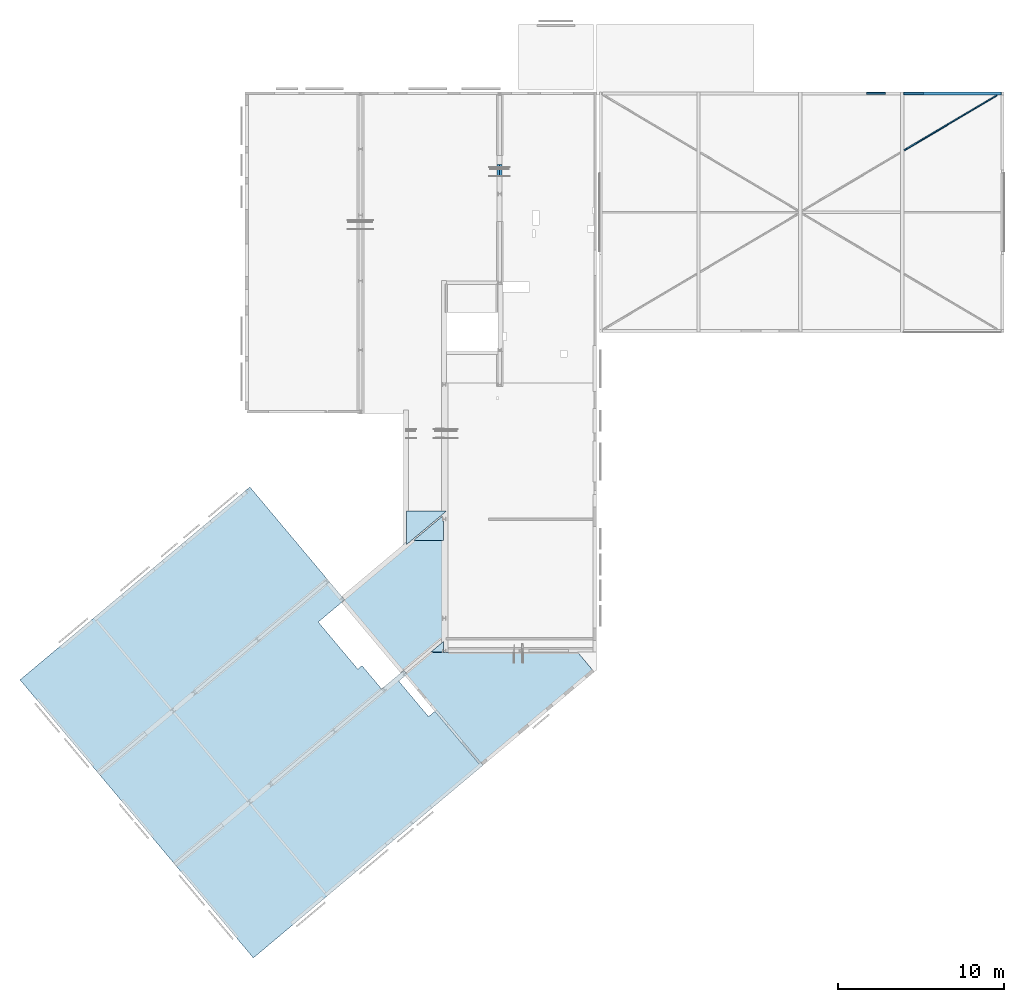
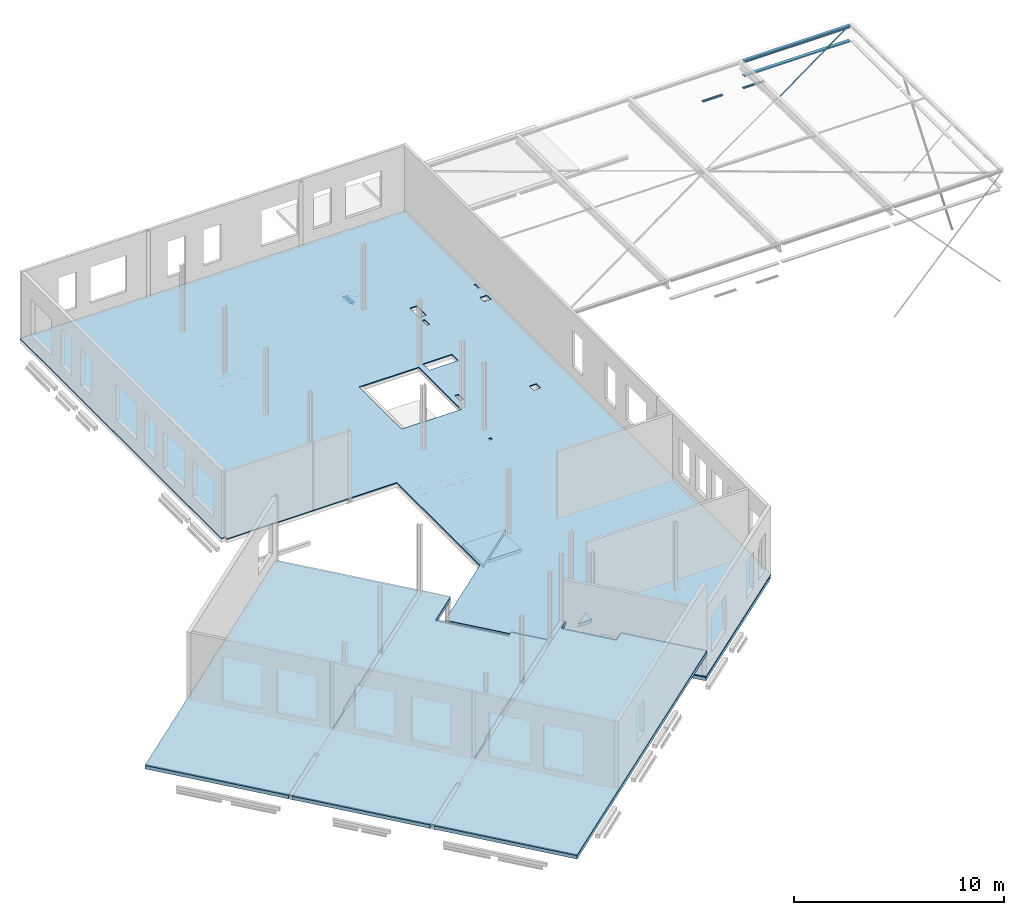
# One storey, part 11 of 16: 10 slabs, 7 beams, 9 openings.
"""IFC2X3 building model written with IfcOpenShell, lengths in millimetres."""

import ifcopenshell
import ifcopenshell.guid

model = None  # the IFC model being written
_history = None  # IfcOwnerHistory: only IFC2X3 demands one
_inside = {}  # id of a spatial element -> (the spatial element, [elements in it])
_under = {}  # id of a project, library or spatial element -> (it, [spatial elements below it])
_declared = {}  # id of a project -> (the project, [libraries it declares])
_typed = {}  # id of a type object -> (the type object, [elements of that type])
_made_of = {}  # id of a material, layer set ... -> (it, [elements and type objects made of it])


def new_model(schema):
    """Start an empty IFC model of exactly this schema.

    Asked for "IFC4X3", IfcOpenShell would pick the latest addendum, in which some entities
    have other attributes; the version numbers below select the first issue.
    IFC2X3 requires an IfcOwnerHistory on every rooted entity: one is made here for all.
    """
    global model, _history
    if schema == "IFC4X3":
        model = ifcopenshell.file(schema_version=(4, 3, 0, 0))
    else:
        model = ifcopenshell.file(schema=schema)
    _inside.clear()
    _under.clear()
    _declared.clear()
    _typed.clear()
    _made_of.clear()
    _history = None
    if model.schema == "IFC2X3":
        org = make("IfcOrganization", Name="unknown")
        user = make(
            "IfcPersonAndOrganization",
            ThePerson=make("IfcPerson", FamilyName="unknown"),
            TheOrganization=org,
        )
        app = make(
            "IfcApplication",
            ApplicationDeveloper=org,
            Version="unknown",
            ApplicationFullName="unknown",
            ApplicationIdentifier="unknown",
        )
        _history = make(
            "IfcOwnerHistory",
            OwningUser=user,
            OwningApplication=app,
            ChangeAction="ADDED",
            CreationDate=0,
        )
    return model


def make(cls, **values):
    """One entity of the class cls with the attributes given. An attribute that is None is left unset."""
    return model.create_entity(
        cls, **{name: value for name, value in values.items() if value is not None}
    )


def entity(cls, *values):
    """Any entity or typed value of the class cls, its attributes in the order of the schema. None: left unset."""
    e = model.create_entity(cls)
    for i, value in enumerate(values):
        if value is not None:
            e[i] = value
    return e


def rooted(cls, **values):
    """An entity with a GlobalId (a new one), such as an element, a storey or a relation."""
    return make(cls, GlobalId=ifcopenshell.guid.new(), OwnerHistory=_history, **values)


def si_unit(unit_type, name, prefix=None):
    """IfcSIUnit, for example si_unit("LENGTHUNIT", "METRE", prefix="MILLI")."""
    return make("IfcSIUnit", UnitType=unit_type, Prefix=prefix, Name=name)


def converted_unit(unit_type, name, factor, base, dimensions=None, offset=None):
    """IfcConversionBasedUnit, such as the inch: factor (a typed value) times the base unit."""
    return make(
        "IfcConversionBasedUnit"
        if offset is None
        else "IfcConversionBasedUnitWithOffset",
        ConversionOffset=offset,
        Dimensions=None
        if dimensions is None
        else entity("IfcDimensionalExponents", *dimensions),
        UnitType=unit_type,
        Name=name,
        ConversionFactor=make(
            "IfcMeasureWithUnit", ValueComponent=factor, UnitComponent=base
        ),
    )


def derived_unit(unit_type, elements):
    """IfcDerivedUnit: a product of units, each with its exponent."""
    return make(
        "IfcDerivedUnit",
        Elements=[
            make("IfcDerivedUnitElement", Unit=unit, Exponent=power)
            for unit, power in elements
        ],
        UnitType=unit_type,
    )


def assignment(units):
    """IfcUnitAssignment: the units of a project."""
    return None if units is None else make("IfcUnitAssignment", Units=units)


def point(xyz):
    """IfcCartesianPoint."""
    return None if xyz is None else make("IfcCartesianPoint", Coordinates=xyz)


def direction(xyz):
    """IfcDirection."""
    return None if xyz is None else make("IfcDirection", DirectionRatios=xyz)


def frame(location, z_axis=None, x_axis=None):
    """IfcAxis2Placement3D, a coordinate frame: its origin and axes. An axis left out is left unset."""
    return make(
        "IfcAxis2Placement3D",
        Location=point(location),
        Axis=direction(z_axis),
        RefDirection=direction(x_axis),
    )


def frame_2d(location, x_axis=None):
    """IfcAxis2Placement2D, a coordinate frame in the plane: its origin and x axis."""
    return make(
        "IfcAxis2Placement2D", Location=point(location), RefDirection=direction(x_axis)
    )


def origin():
    """The frame at (0, 0, 0) with its axes left unset."""
    return frame((0.0, 0.0, 0.0))


def place(relative_to, where):
    """IfcLocalPlacement: puts the frame where relative to a parent placement (None: the world)."""
    return make(
        "IfcLocalPlacement", PlacementRelTo=relative_to, RelativePlacement=where
    )


def context(
    kind, dimensions, precision=None, world=None, true_north=None, identifier=None
):
    """IfcGeometricRepresentationContext, for example the 3D "Model" context."""
    return make(
        "IfcGeometricRepresentationContext",
        ContextIdentifier=identifier,
        ContextType=kind,
        CoordinateSpaceDimension=dimensions,
        Precision=precision,
        WorldCoordinateSystem=world,
        TrueNorth=true_north,
    )


def subcontext(parent, identifier, kind, view, scale=None):
    """IfcGeometricRepresentationSubContext, for example "Body" below "Model"."""
    return make(
        "IfcGeometricRepresentationSubContext",
        ContextIdentifier=identifier,
        ContextType=kind,
        ParentContext=parent,
        TargetScale=scale,
        TargetView=view,
    )


def project(units=None, contexts=None):
    """IfcProject with its units and contexts."""
    return rooted(
        "IfcProject",
        Name="project",
        RepresentationContexts=contexts,
        UnitsInContext=assignment(units),
    )


def spatial(cls, under=None, at=None, **own):
    """A site, building, storey or space (cls), placed at a placement, below another one or the project."""
    s = rooted(cls, ObjectPlacement=at, **own)
    if under is not None:
        _under.setdefault(under.id(), (under, []))[1].append(s)
    return s


def polyline(points):
    """IfcPolyline through the points."""
    return make("IfcPolyline", Points=[point(p) for p in points])


def circle_curve(where, radius):
    """IfcCircle in the frame where."""
    return make("IfcCircle", Position=where, Radius=radius)


def parameter(value):
    """IfcParameterValue: where a trimmed curve begins or ends, as a parameter of its basis curve."""
    return model.create_entity("IfcParameterValue", value)


def trimmed(basis, trim1, trim2, sense, master):
    """IfcTrimmedCurve: the piece of a basis curve between two trims."""
    return make(
        "IfcTrimmedCurve",
        BasisCurve=basis,
        Trim1=trim1,
        Trim2=trim2,
        SenseAgreement=sense,
        MasterRepresentation=master,
    )


def segment(curve, same_sense, transition):
    """IfcCompositeCurveSegment."""
    return make(
        "IfcCompositeCurveSegment",
        Transition=transition,
        SameSense=same_sense,
        ParentCurve=curve,
    )


def composite_curve(segments, self_intersect=None):
    """IfcCompositeCurve: segments joined end to end."""
    return make("IfcCompositeCurve", Segments=segments, SelfIntersect=self_intersect)


def profile(cls, at=None, kind="AREA", **sizes):
    """A parametric profile (cls). Its sizes go by their IFC names, for example OverallWidth=200.0."""
    return make(cls, ProfileType=kind, Position=at, **sizes)


def rectangle(**sizes):
    """IfcRectangleProfileDef."""
    return profile("IfcRectangleProfileDef", **sizes)


def i_section(**sizes):
    """IfcIShapeProfileDef."""
    return profile("IfcIShapeProfileDef", **sizes)


def outline(outer, holes=None, kind="AREA"):
    """IfcArbitraryClosedProfileDef: a profile drawn as a closed curve; with holes, ...WithVoids."""
    if holes is None:
        return make("IfcArbitraryClosedProfileDef", ProfileType=kind, OuterCurve=outer)
    return make(
        "IfcArbitraryProfileDefWithVoids",
        ProfileType=kind,
        OuterCurve=outer,
        InnerCurves=holes,
    )


def extrude(swept, where, along, depth):
    """IfcExtrudedAreaSolid: the profile swept, set in the frame where, extruded along a direction by depth."""
    return make(
        "IfcExtrudedAreaSolid",
        SweptArea=swept,
        Position=where,
        ExtrudedDirection=direction(along),
        Depth=depth,
    )


def shape(context_of_items, identifier, shape_type, items):
    """IfcShapeRepresentation: the items that make up one representation, for example the "Body"."""
    return make(
        "IfcShapeRepresentation",
        ContextOfItems=context_of_items,
        RepresentationIdentifier=identifier,
        RepresentationType=shape_type,
        Items=items,
    )


def material(Name=None, Category=None):
    """IfcMaterial."""
    return make("IfcMaterial", Name=Name, Category=Category)


def layer(
    of_material, thickness, ventilated=None, Name=None, Category=None, Priority=None
):
    """IfcMaterialLayer: one layer of a wall or slab, of a material (None: an air gap)."""
    return make(
        "IfcMaterialLayer",
        Material=of_material,
        LayerThickness=thickness,
        IsVentilated=ventilated,
        Name=Name,
        Category=Category,
        Priority=Priority,
    )


def layer_set(layers, Name=None):
    """IfcMaterialLayerSet."""
    return make("IfcMaterialLayerSet", MaterialLayers=layers, LayerSetName=Name)


def layer_usage(for_layer_set, set_direction, sense, offset, extent=None):
    """IfcMaterialLayerSetUsage: how a layer set lies in its element."""
    return make(
        "IfcMaterialLayerSetUsage",
        ForLayerSet=for_layer_set,
        LayerSetDirection=set_direction,
        DirectionSense=sense,
        OffsetFromReferenceLine=offset,
        ReferenceExtent=extent,
    )


def made_of(thing, what):
    """Note that an element or type object is made of a material, layer set ...; save() writes the relation."""
    if what is not None:
        _made_of.setdefault(what.id(), (what, []))[1].append(thing)
    return thing


def type_object(cls, material=None, **own):
    """A type object (cls), such as IfcWallType, which elements share."""
    return made_of(rooted(cls, **own), material)


def element(
    cls,
    number,
    at=None,
    inside=None,
    cuts=None,
    type_object=None,
    material=None,
    context=None,
    identifier="Body",
    shape_type=None,
    held_by="IfcProductDefinitionShape",
    body=None,
    shapes=None,
    **own,
):
    """One element of the class cls, such as IfcWall. Its Tag is "e" and its number.

    at: its placement. inside: the storey or other place that contains it. cuts: it is an
    opening in that element (IfcRelVoidsElement). A single representation is given by context,
    identifier, shape_type and body (its items); several are given by shapes. held_by: the class
    of the entity that holds the representations. save() writes the other relations.
    """
    e = rooted(cls, Tag="e%d" % number, ObjectPlacement=at, **own)
    if body is not None:
        shapes = [shape(context, identifier, shape_type, body)]
    if shapes is not None:
        e.Representation = make(held_by, Representations=shapes)
    if inside is not None:
        _inside.setdefault(inside.id(), (inside, []))[1].append(e)
    if cuts is not None:
        rooted(
            "IfcRelVoidsElement", RelatingBuildingElement=cuts, RelatedOpeningElement=e
        )
    if type_object is not None:
        _typed.setdefault(type_object.id(), (type_object, []))[1].append(e)
    return made_of(e, material)


def aggregate(whole, parts):
    """IfcRelAggregates: a whole, such as a stair, and the parts it consists of."""
    return rooted("IfcRelAggregates", RelatingObject=whole, RelatedObjects=parts)


def save(model, path):
    """Write the relations noted so far, then the file.

    IfcRelAggregates (storeys below a building ...), IfcRelContainedInSpatialStructure (elements
    in a storey), IfcRelDefinesByType, IfcRelAssociatesMaterial and IfcRelDeclares: one each for
    every whole, place, type object, material and project.
    """
    for whole, parts in _under.values():
        aggregate(whole, parts)
    for where, things in _inside.values():
        rooted(
            "IfcRelContainedInSpatialStructure",
            RelatedElements=things,
            RelatingStructure=where,
        )
    for kind, things in _typed.values():
        rooted("IfcRelDefinesByType", RelatedObjects=things, RelatingType=kind)
    for what, things in _made_of.values():
        rooted("IfcRelAssociatesMaterial", RelatedObjects=things, RelatingMaterial=what)
    for by, libraries in _declared.values():
        rooted("IfcRelDeclares", RelatingContext=by, RelatedDefinitions=libraries)
    model.write(path)


model = new_model("IFC2X3")

# Units and contexts
model_context = context("Model", 3, precision=0.01, world=origin(), true_north=direction((6.12303176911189e-17, 1.0)))
body_context = subcontext(model_context, "Body", "Model", "MODEL_VIEW")
ifc_project = project(units=[si_unit("LENGTHUNIT", "METRE", prefix="MILLI"), si_unit("AREAUNIT", "SQUARE_METRE"), si_unit("VOLUMEUNIT", "CUBIC_METRE"), converted_unit("PLANEANGLEUNIT", "DEGREE", entity("IfcRatioMeasure", 0.0174532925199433), si_unit("PLANEANGLEUNIT", "RADIAN"), dimensions=[0, 0, 0, 0, 0, 0, 0]), si_unit("MASSUNIT", "GRAM", prefix="KILO"), derived_unit("MASSDENSITYUNIT", [(si_unit("MASSUNIT", "GRAM", prefix="KILO"), 1), (si_unit("LENGTHUNIT", "METRE"), -3)]), derived_unit("MOMENTOFINERTIAUNIT", [(si_unit("LENGTHUNIT", "METRE"), 4)]), si_unit("TIMEUNIT", "SECOND"), si_unit("FREQUENCYUNIT", "HERTZ"), si_unit("THERMODYNAMICTEMPERATUREUNIT", "DEGREE_CELSIUS"), derived_unit("THERMALTRANSMITTANCEUNIT", [(si_unit("MASSUNIT", "GRAM", prefix="KILO"), 1), (si_unit("THERMODYNAMICTEMPERATUREUNIT", "KELVIN"), -1), (si_unit("TIMEUNIT", "SECOND"), -3)]), derived_unit("VOLUMETRICFLOWRATEUNIT", [(si_unit("LENGTHUNIT", "METRE"), 3), (si_unit("TIMEUNIT", "SECOND"), -1)]), si_unit("ELECTRICCURRENTUNIT", "AMPERE"), si_unit("ELECTRICVOLTAGEUNIT", "VOLT"), si_unit("POWERUNIT", "WATT"), si_unit("FORCEUNIT", "NEWTON", prefix="KILO"), si_unit("ILLUMINANCEUNIT", "LUX"), si_unit("LUMINOUSFLUXUNIT", "LUMEN"), si_unit("LUMINOUSINTENSITYUNIT", "CANDELA"), derived_unit("USERDEFINED", [(si_unit("MASSUNIT", "GRAM", prefix="KILO"), -1), (si_unit("LENGTHUNIT", "METRE"), -2), (si_unit("TIMEUNIT", "SECOND"), 3), (si_unit("LUMINOUSFLUXUNIT", "LUMEN"), 1)]), derived_unit("LINEARVELOCITYUNIT", [(si_unit("LENGTHUNIT", "METRE"), 1), (si_unit("TIMEUNIT", "SECOND"), -1)]), si_unit("PRESSUREUNIT", "PASCAL"), derived_unit("USERDEFINED", [(si_unit("LENGTHUNIT", "METRE"), -2), (si_unit("MASSUNIT", "GRAM", prefix="KILO"), 1), (si_unit("TIMEUNIT", "SECOND"), -2)]), derived_unit("LINEARFORCEUNIT", [(si_unit("MASSUNIT", "GRAM", prefix="KILO"), 1), (si_unit("LENGTHUNIT", "METRE"), 1), (si_unit("TIMEUNIT", "SECOND"), -2), (si_unit("LENGTHUNIT", "METRE"), -1)]), derived_unit("PLANARFORCEUNIT", [(si_unit("MASSUNIT", "GRAM", prefix="KILO"), 1), (si_unit("LENGTHUNIT", "METRE"), 1), (si_unit("TIMEUNIT", "SECOND"), -2), (si_unit("LENGTHUNIT", "METRE"), -2)])], contexts=[model_context])

# Site, building, storey
site_placement = place(None, origin())
site = spatial("IfcSite", under=ifc_project, at=site_placement, Name="Default", CompositionType="ELEMENT")
building_placement = place(site_placement, origin())
building = spatial("IfcBuilding", under=site, at=building_placement, CompositionType="ELEMENT")
storey_placement = place(building_placement, frame((0.0, 0.0, 3500.0)))
storey = spatial("IfcBuildingStorey", under=building, at=storey_placement, Name="01 eerste verdieping", CompositionType="ELEMENT", Elevation=3500.00000000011)

# Beams
ifc_material_1 = material(Name="00_Staal_generiek")
beam_type_1 = type_object("IfcBeamType", Name="BERSnl_28_SF_LIB_balk hoeklijn ongelijk_gen_ISR:balk gen l150x100x10", PredefinedType="BEAM")
beam_1_placement = place(storey_placement, frame((29126.1849765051, 30395.2878010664, 126.0), z_axis=(0.0, 0.0, 1.0), x_axis=(0.0, 1.0, 0.0)))
element("IfcBeam", 1, at=beam_1_placement, inside=storey, type_object=beam_type_1, material=ifc_material_1, Name="BERSnl_28_SF_LIB_balk hoeklijn ongelijk_gen_ISR:balk gen l150x100x10", ObjectType="BERSnl_28_SF_LIB_balk hoeklijn ongelijk_gen_ISR:balk gen l150x100x10", context=body_context, shape_type="SweptSolid", body=[
    extrude(outline(composite_curve([segment(polyline([(-37.7777777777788, -95.5555555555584), (-33.7777777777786, -95.5555555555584)]), True, "CONTINUOUS"), segment(trimmed(circle_curve(frame_2d((-33.7777777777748, -89.5555555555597), x_axis=(0.0, -1.0)), 5.99999999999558), [parameter(0.0)], [parameter(90.0000000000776)], True, "PARAMETER"), True, "CONTINUOUS"), segment(polyline([(-27.7777777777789, -89.5555555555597), (-27.7777777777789, 32.4444444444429)]), True, "CONTINUOUS"), segment(trimmed(circle_curve(frame_2d((-15.777777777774, 32.4444444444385), x_axis=(-1.0, 0.0)), 12.000000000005), [parameter(270.000000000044)], [parameter(0.0)], True, "PARAMETER"), False, "CONTINUOUS"), segment(polyline([(-15.7777777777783, 44.4444444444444), (56.2222222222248, 44.4444444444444)]), True, "CONTINUOUS"), segment(trimmed(circle_curve(frame_2d((56.2222222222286, 50.4444444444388), x_axis=(0.0, -1.0)), 5.99999999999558), [parameter(0.0)], [parameter(90.0000000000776)], True, "PARAMETER"), True, "CONTINUOUS"), segment(polyline([(62.2222222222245, 50.4444444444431), (62.2222222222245, 54.4444444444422)]), True, "CONTINUOUS"), segment(polyline([(62.2222222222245, 54.4444444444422), (-37.7777777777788, 54.4444444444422)]), True, "CONTINUOUS"), segment(polyline([(-37.7777777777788, 54.4444444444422), (-37.7777777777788, -95.5555555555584)]), True, "CONTINUOUS")], self_intersect=False)), frame((0.0, 95.5555555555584, -14.3777777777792), z_axis=(1.0, 0.0, 0.0), x_axis=(0.0, 0.0, -1.0)), (0.0, 0.0, 1.0), 720.000000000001),
])
beam_2_placement = place(storey_placement, frame((28812.6849765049, 30395.2878010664, 126.0), z_axis=(0.0, 0.0, 1.0), x_axis=(0.0, 1.0, 0.0)))
element("IfcBeam", 2, at=beam_2_placement, inside=storey, type_object=beam_type_1, material=ifc_material_1, Name="BERSnl_28_SF_LIB_balk hoeklijn ongelijk_gen_ISR:balk gen l150x100x10", ObjectType="BERSnl_28_SF_LIB_balk hoeklijn ongelijk_gen_ISR:balk gen l150x100x10", context=body_context, shape_type="SweptSolid", body=[
    extrude(outline(composite_curve([segment(polyline([(-37.7777777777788, -54.4444444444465), (62.2222222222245, -54.4444444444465)]), True, "CONTINUOUS"), segment(polyline([(62.2222222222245, -54.4444444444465), (62.2222222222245, -50.4444444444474)]), True, "CONTINUOUS"), segment(trimmed(circle_curve(frame_2d((56.2222222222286, -50.4444444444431), x_axis=(1.0, 0.0)), 5.99999999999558), [parameter(0.0)], [parameter(90.0000000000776)], True, "PARAMETER"), True, "CONTINUOUS"), segment(polyline([(56.2222222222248, -44.4444444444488), (-15.7777777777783, -44.4444444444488)]), True, "CONTINUOUS"), segment(trimmed(circle_curve(frame_2d((-15.777777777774, -32.4444444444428), x_axis=(0.0, -1.0)), 12.000000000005), [parameter(270.000000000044)], [parameter(0.0)], True, "PARAMETER"), False, "CONTINUOUS"), segment(polyline([(-27.7777777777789, -32.4444444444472), (-27.7777777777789, 89.5555555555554)]), True, "CONTINUOUS"), segment(trimmed(circle_curve(frame_2d((-33.7777777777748, 89.5555555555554), x_axis=(1.0, 0.0)), 5.99999999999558), [parameter(0.0)], [parameter(90.0000000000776)], True, "PARAMETER"), True, "CONTINUOUS"), segment(polyline([(-33.7777777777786, 95.5555555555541), (-37.7777777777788, 95.5555555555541)]), True, "CONTINUOUS"), segment(polyline([(-37.7777777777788, 95.5555555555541), (-37.7777777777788, -54.4444444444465)]), True, "CONTINUOUS")], self_intersect=False)), frame((0.0, -95.5555555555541, -14.3777777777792), z_axis=(1.0, 0.0, 0.0), x_axis=(0.0, 0.0, -1.0)), (0.0, 0.0, 1.0), 720.000000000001),
])
beam_type_2 = type_object("IfcBeamType", Name="BERSnl_28_SF_LIB_balk unp_gen_ISR:balk_gen_UNP140", PredefinedType="BEAM")
beam_3_placement = place(storey_placement, frame((56428.6770571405, 35496.2966282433, 1077.4999999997)))
element("IfcBeam", 3, at=beam_3_placement, inside=storey, type_object=beam_type_2, material=ifc_material_1, Name="BERSnl_28_SF_LIB_balk unp_gen_ISR:balk_gen_UNP140", ObjectType="BERSnl_28_SF_LIB_balk unp_gen_ISR:balk_gen_UNP140", context=body_context, shape_type="SweptSolid", body=[
    extrude(outline(composite_curve([segment(polyline([(-26.8998758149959, -70.0), (33.1001241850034, -70.0)]), True, "CONTINUOUS"), segment(polyline([(33.100124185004, -70.0), (33.1001241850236, 70.0)]), True, "CONTINUOUS"), segment(polyline([(33.1001241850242, 70.0), (-26.8998758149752, 70.0)]), True, "CONTINUOUS"), segment(polyline([(-26.8998758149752, 70.0), (-26.8998758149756, 66.7383127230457)]), True, "CONTINUOUS"), segment(trimmed(circle_curve(frame_2d((-21.8998758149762, 66.738312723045), x_axis=(-1.0, 0.0)), 4.99999999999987), [parameter(0.0)], [parameter(85.4200000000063)], True, "PARAMETER"), True, "CONTINUOUS"), segment(polyline([(-22.2991307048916, 61.7542786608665), (16.8986339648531, 58.6142721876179)]), True, "CONTINUOUS"), segment(trimmed(circle_curve(frame_2d((16.1001241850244, 48.6462040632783), x_axis=(0.0798509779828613, 0.996806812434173)), 9.99999999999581), [parameter(274.579999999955)], [parameter(0.0)], True, "PARAMETER"), False, "CONTINUOUS"), segment(polyline([(26.1001241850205, 48.6462040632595), (26.1001241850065, -48.646204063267)]), True, "CONTINUOUS"), segment(trimmed(circle_curve(frame_2d((16.1001241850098, -48.6462040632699), x_axis=(1.0, 0.0)), 9.99999999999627), [parameter(274.579999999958)], [parameter(0.0)], True, "PARAMETER"), False, "CONTINUOUS"), segment(polyline([(16.8986339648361, -58.6142721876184), (-22.2991307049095, -61.7542786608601)]), True, "CONTINUOUS"), segment(trimmed(circle_curve(frame_2d((-21.8998758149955, -66.73831272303), x_axis=(-0.079850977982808, 0.996806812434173)), 4.99999999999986), [parameter(0.0)], [parameter(85.4200000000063)], True, "PARAMETER"), True, "CONTINUOUS"), segment(polyline([(-26.8998758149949, -66.738312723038), (-26.8998758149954, -70.0)]), True, "CONTINUOUS")], self_intersect=False)), frame((-3055.24999999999, -70.0, 15.6001241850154), z_axis=(1.0, 0.0, 0.0), x_axis=(0.0, 0.0, -1.0)), (0.0, 0.0, 1.0), 1210.0),
])
beam_4_placement = place(storey_placement, frame((54128.6770571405, 35496.2966282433, 1077.4999999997)))
element("IfcBeam", 4, at=beam_4_placement, inside=storey, type_object=beam_type_2, material=ifc_material_1, Name="BERSnl_28_SF_LIB_balk unp_gen_ISR:balk_gen_UNP140", ObjectType="BERSnl_28_SF_LIB_balk unp_gen_ISR:balk_gen_UNP140", context=body_context, shape_type="SweptSolid", body=[
    extrude(outline(composite_curve([segment(polyline([(-26.8998758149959, -70.0), (33.1001241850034, -70.0)]), True, "CONTINUOUS"), segment(polyline([(33.100124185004, -70.0), (33.1001241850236, 70.0)]), True, "CONTINUOUS"), segment(polyline([(33.1001241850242, 70.0), (-26.8998758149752, 70.0)]), True, "CONTINUOUS"), segment(polyline([(-26.8998758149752, 70.0), (-26.8998758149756, 66.7383127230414)]), True, "CONTINUOUS"), segment(trimmed(circle_curve(frame_2d((-21.8998758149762, 66.7383127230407), x_axis=(-1.0, 0.0)), 4.99999999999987), [parameter(0.0)], [parameter(85.4200000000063)], True, "PARAMETER"), True, "CONTINUOUS"), segment(polyline([(-22.2991307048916, 61.7542786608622), (16.8986339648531, 58.6142721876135)]), True, "CONTINUOUS"), segment(trimmed(circle_curve(frame_2d((16.1001241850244, 48.6462040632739), x_axis=(0.0798509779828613, 0.996806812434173)), 9.99999999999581), [parameter(274.579999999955)], [parameter(0.0)], True, "PARAMETER"), False, "CONTINUOUS"), segment(polyline([(26.1001241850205, 48.6462040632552), (26.1001241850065, -48.6462040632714)]), True, "CONTINUOUS"), segment(trimmed(circle_curve(frame_2d((16.1001241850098, -48.6462040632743), x_axis=(1.0, 0.0)), 9.99999999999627), [parameter(274.579999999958)], [parameter(0.0)], True, "PARAMETER"), False, "CONTINUOUS"), segment(polyline([(16.8986339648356, -58.6142721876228), (-22.2991307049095, -61.7542786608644)]), True, "CONTINUOUS"), segment(trimmed(circle_curve(frame_2d((-21.8998758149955, -66.7383127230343), x_axis=(-0.079850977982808, 0.996806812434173)), 4.99999999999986), [parameter(0.0)], [parameter(85.4200000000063)], True, "PARAMETER"), True, "CONTINUOUS"), segment(polyline([(-26.8998758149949, -66.7383127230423), (-26.8998758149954, -70.0)]), True, "CONTINUOUS")], self_intersect=False)), frame((-2985.41584989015, -70.0, 15.6001241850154), z_axis=(1.0, 0.0, 0.0), x_axis=(0.0, 0.0, -1.0)), (0.0, 0.0, 1.0), 1140.16584989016),
])
beam_type_3 = type_object("IfcBeamType", Name="BERSnl_28_SF_LIB_balk hea -SH_gen_ISR:balk gen hea160", PredefinedType="BEAM")
beam_5_placement = place(storey_placement, frame((54767.5838972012, 35416.2966282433, 2727.48315687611)))
element("IfcBeam", 5, at=beam_5_placement, inside=storey, type_object=beam_type_3, material=ifc_material_1, Name="BERSnl_28_SF_LIB_balk hea -SH_gen_ISR:balk gen hea160", ObjectType="BERSnl_28_SF_LIB_balk hea -SH_gen_ISR:balk gen hea160", context=body_context, shape_type="SweptSolid", body=[
    extrude(i_section(OverallWidth=160.00000000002, OverallDepth=152.0, WebThickness=5.99999999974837, FlangeThickness=9.0000000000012, FilletRadius=15.0000000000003, at=frame_2d((1.08713038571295e-12, -1.51558765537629e-11), x_axis=(0.0, 1.0))), frame((-1384.15684006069, 0.0, -76.0), z_axis=(1.0, 0.0, 0.0), x_axis=(0.0, 0.0, -1.0)), (0.0, 0.0, 1.0), 5890.00000000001),
])
beam_type_4 = type_object("IfcBeamType", Name="BERSnl_28_SF_LIB_balk hoeklijn_gen_ISR:balk gen l80x8", PredefinedType="BEAM")
beam_6_placement = place(storey_placement, frame((53421.6620414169, 31973.9396779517, 2725.0), z_axis=(-0.00378960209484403, -0.00224646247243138, 0.999990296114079), x_axis=(0.860206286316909, 0.509927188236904, 0.0044054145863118)))
element("IfcBeam", 6, at=beam_6_placement, inside=storey, type_object=beam_type_4, material=ifc_material_1, Name="BERSnl_28_SF_LIB_balk hoeklijn_gen_ISR:balk gen l80x8", ObjectType="BERSnl_28_SF_LIB_balk hoeklijn_gen_ISR:balk gen l80x8", context=body_context, shape_type="SweptSolid", body=[
    extrude(outline(composite_curve([segment(polyline([(-49.7777777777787, -30.2222222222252), (30.2222222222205, -30.2222222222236)]), True, "CONTINUOUS"), segment(polyline([(30.2222222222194, -30.2222222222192), (30.2222222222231, 49.7777777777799)]), True, "CONTINUOUS"), segment(polyline([(30.2222222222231, 49.7777777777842), (27.2222222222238, 49.7777777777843)]), True, "CONTINUOUS"), segment(trimmed(circle_curve(frame_2d((27.2222222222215, 44.7777777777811), x_axis=(0.0, 1.0)), 4.99999999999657), [parameter(0.0)], [parameter(90.0000000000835)], True, "PARAMETER"), True, "CONTINUOUS"), segment(polyline([(22.2222222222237, 44.777777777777), (22.222222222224, -12.2222222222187)]), True, "CONTINUOUS"), segment(trimmed(circle_curve(frame_2d((12.222222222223, -12.2222222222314), x_axis=(1.0, 0.0)), 10.0000000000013), [parameter(270.000000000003)], [parameter(0.0)], True, "PARAMETER"), False, "CONTINUOUS"), segment(polyline([(12.2222222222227, -22.2222222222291), (-44.7777777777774, -22.2222222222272)]), True, "CONTINUOUS"), segment(trimmed(circle_curve(frame_2d((-44.7777777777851, -27.2222222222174), x_axis=(0.0, 1.0)), 4.99999999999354), [parameter(0.0)], [parameter(90.0000000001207)], True, "PARAMETER"), True, "CONTINUOUS"), segment(polyline([(-49.7777777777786, -27.2222222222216), (-49.7777777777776, -30.2222222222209)]), True, "CONTINUOUS")], self_intersect=False)), frame((0.0173996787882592, 7.62222222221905, -49.7777777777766), z_axis=(1.0, 0.0, 0.0), x_axis=(0.0, 0.0, -1.0)), (0.0, 0.0, 1.0), 6505.50739609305),
])
beam_type_5 = type_object("IfcBeamType", Name="BERSnl_28_SF_LIB_balk unp_gen_ISR:balk_gen_UNP180", PredefinedType="BEAM")
beam_7_placement = place(storey_placement, frame((57643.6770571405, 35316.2966282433, 1832.49999999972)))
element("IfcBeam", 7, at=beam_7_placement, inside=storey, type_object=beam_type_5, material=ifc_material_1, Name="BERSnl_28_SF_LIB_balk unp_gen_ISR:balk_gen_UNP180", ObjectType="BERSnl_28_SF_LIB_balk unp_gen_ISR:balk_gen_UNP180", context=body_context, shape_type="SweptSolid", body=[
    extrude(outline(composite_curve([segment(polyline([(-38.5101366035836, -90.0), (31.4898633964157, -90.0)]), True, "CONTINUOUS"), segment(polyline([(31.4898633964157, -90.0), (31.4898633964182, -86.5603415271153)]), True, "CONTINUOUS"), segment(trimmed(circle_curve(frame_2d((25.9898633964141, -86.5603415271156), x_axis=(1.0, 0.0)), 5.50000000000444), [parameter(0.0)], [parameter(85.4199999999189)], True, "PARAMETER"), True, "CONTINUOUS"), segment(polyline([(26.42904377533, -81.0779040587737), (-20.388497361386, -77.3275018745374)]), True, "CONTINUOUS"), segment(trimmed(circle_curve(frame_2d((-19.510136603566, -66.3626269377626), x_axis=(-0.0798509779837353, -0.996806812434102)), 10.9999999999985), [parameter(274.579999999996)], [parameter(0.0)], True, "PARAMETER"), False, "CONTINUOUS"), segment(polyline([(-30.5101366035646, -66.3626269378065), (-30.5101366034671, 66.3626269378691)]), True, "CONTINUOUS"), segment(trimmed(circle_curve(frame_2d((-19.5101366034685, 66.3626269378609), x_axis=(-1.0, 0.0)), 10.9999999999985), [parameter(274.579999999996)], [parameter(0.0)], True, "PARAMETER"), False, "CONTINUOUS"), segment(polyline([(-20.3884973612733, 77.327501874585), (26.4290437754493, 81.0779040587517)]), True, "CONTINUOUS"), segment(trimmed(circle_curve(frame_2d((25.9898633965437, 86.5603415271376), x_axis=(0.0798509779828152, -0.996806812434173)), 5.50000000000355), [parameter(0.0)], [parameter(85.4199999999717)], True, "PARAMETER"), True, "CONTINUOUS"), segment(polyline([(31.4898633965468, 86.5603415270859), (31.4898633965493, 90.0)]), True, "CONTINUOUS"), segment(polyline([(31.4898633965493, 90.0), (-38.5101366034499, 90.0)]), True, "CONTINUOUS"), segment(polyline([(-38.510136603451, 90.0), (-38.5101366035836, -90.0)]), True, "CONTINUOUS")], self_intersect=False)), frame((-4270.24999999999, 90.0, -19.3101366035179), z_axis=(1.0, 0.0, 0.0), x_axis=(0.0, 0.0, -1.0)), (0.0, 0.0, 1.0), 5880.00000000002),
])

# Slab, openings
ifc_material_2 = material(Name="f2_beton ihwg")
ifc_layer_1 = layer(ifc_material_2, 60.0)
ifc_layer_set_1 = layer_set([ifc_layer_1], Name="Floor:BERSnl_23_FL_druklaag 60")
ifc_layer_usage_1 = layer_usage(ifc_layer_set_1, "AXIS3", "POSITIVE", 0.0)
slab_type_1 = type_object("IfcSlabType", Name="Floor:BERSnl_23_FL_druklaag 60", PredefinedType="FLOOR", material=ifc_layer_set_1)
slab_1_placement = place(storey_placement, frame((13595.4349765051, -5243.71522208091, 350.0)))
slab_1 = element("IfcSlab", 8, at=slab_1_placement, inside=storey, type_object=slab_type_1, material=ifc_layer_usage_1, Name="Floor:BERSnl_23_FL_druklaag 60", ObjectType="Floor:BERSnl_23_FL_druklaag 60", PredefinedType="FLOOR", context=body_context, shape_type="SweptSolid", body=[
    extrude(outline(polyline([(-10618.9960403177, 20370.0059251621), (-10618.9960403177, -14522.5459472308), (-3650.26460406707, -20370.0059251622), (874.960168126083, -14977.0530456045), (760.053501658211, -14880.6349041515), (4784.7889871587, -10084.1419300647), (1053.99604031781, -6953.6349443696), (1053.9960403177, 980.658171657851), (10398.9960403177, 980.658171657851), (10398.9960403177, 1161.00592516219), (10618.9960403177, 1161.0059251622), (10618.9960403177, 20370.0059251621), (-10618.9960403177, 20370.0059251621)])), frame((10618.9960403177, 20370.0059251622, 60.0), z_axis=(0.0, 0.0, -1.0), x_axis=(-1.0, 0.0, 0.0)), (0.0, 0.0, 1.0), 59.9999999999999),
])
opening_1_placement = place(storey_placement, frame((13595.4349765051, -5243.71522208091, 350.0)))
element("IfcOpeningElement", 9, at=opening_1_placement, cuts=slab_1, ObjectType="Opening", context=body_context, shape_type="SweptSolid", body=[
    extrude(rectangle(XDim=4053.0, YDim=3288.99999999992, at=frame_2d((-3010.50395968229, 6739.50592516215), x_axis=(0.0, -1.0))), frame((10618.9960403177, 20370.0059251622, 60.0), z_axis=(0.0, 0.0, -1.0), x_axis=(-1.0, 0.0, 0.0)), (0.0, 0.0, 1.0), 59.9999999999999),
])
opening_2_placement = place(storey_placement, frame((13595.4349765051, -5243.71522208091, 350.0)))
element("IfcOpeningElement", 10, at=opening_2_placement, cuts=slab_1, ObjectType="Opening", context=body_context, shape_type="SweptSolid", body=[
    extrude(rectangle(XDim=899.999999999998, YDim=400.0, at=frame_2d((-6930.00395968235, 12784.0059251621), x_axis=(0.0, -1.0))), frame((10618.9960403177, 20370.0059251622, 60.0), z_axis=(0.0, 0.0, -1.0), x_axis=(-1.0, 0.0, 0.0)), (0.0, 0.0, 1.0), 59.9999999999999),
])
opening_3_placement = place(storey_placement, frame((13595.4349765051, -5243.71522208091, 350.0)))
element("IfcOpeningElement", 11, at=opening_3_placement, cuts=slab_1, ObjectType="Opening", context=body_context, shape_type="SweptSolid", body=[
    extrude(rectangle(XDim=450.000000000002, YDim=150.000000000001, at=frame_2d((-6805.00395968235, 11814.0059251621), x_axis=(0.0, -1.0))), frame((10618.9960403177, 20370.0059251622, 60.0), z_axis=(0.0, 0.0, -1.0), x_axis=(-1.0, 0.0, 0.0)), (0.0, 0.0, 1.0), 59.9999999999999),
])
opening_4_placement = place(storey_placement, frame((13595.4349765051, -5243.71522208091, 350.0)))
element("IfcOpeningElement", 12, at=opening_4_placement, cuts=slab_1, ObjectType="Opening", context=body_context, shape_type="SweptSolid", body=[
    extrude(rectangle(XDim=349.999999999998, YDim=100.0, at=frame_2d((-10418.9960403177, 13221.0059251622), x_axis=(0.0, -1.0))), frame((10618.9960403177, 20370.0059251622, 60.0), z_axis=(0.0, 0.0, -1.0), x_axis=(-1.0, 0.0, 0.0)), (0.0, 0.0, 1.0), 59.9999999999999),
])
opening_5_placement = place(storey_placement, frame((13595.4349765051, -5243.71522208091, 350.0)))
element("IfcOpeningElement", 13, at=opening_5_placement, cuts=slab_1, ObjectType="Opening", context=body_context, shape_type="SweptSolid", body=[
    extrude(rectangle(XDim=400.0, YDim=400.0, at=frame_2d((-10268.9960403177, 12132.0059251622), x_axis=(0.0, -1.0))), frame((10618.9960403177, 20370.0059251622, 60.0), z_axis=(0.0, 0.0, -1.0), x_axis=(-1.0, 0.0, 0.0)), (0.0, 0.0, 1.0), 59.9999999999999),
])
opening_6_placement = place(storey_placement, frame((13595.4349765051, -5243.71522208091, 350.0)))
element("IfcOpeningElement", 14, at=opening_6_placement, cuts=slab_1, ObjectType="Opening", context=body_context, shape_type="SweptSolid", body=[
    extrude(rectangle(XDim=599.999999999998, YDim=1600.0, at=frame_2d((-5755.00395968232, 8600.00592516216), x_axis=(0.0, -1.0))), frame((10618.9960403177, 20370.0059251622, 60.0), z_axis=(0.0, 0.0, -1.0), x_axis=(-1.0, 0.0, 0.0)), (0.0, 0.0, 1.0), 59.9999999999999),
])
opening_7_placement = place(storey_placement, frame((13595.4349765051, -5243.71522208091, 350.0)))
element("IfcOpeningElement", 15, at=opening_7_placement, cuts=slab_1, ObjectType="Opening", context=body_context, shape_type="SweptSolid", body=[
    extrude(rectangle(XDim=400.0, YDim=400.0, at=frame_2d((-8625.00395968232, 4570.00592516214), x_axis=(0.0, -1.0))), frame((10618.9960403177, 20370.0059251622, 60.0), z_axis=(0.0, 0.0, -1.0), x_axis=(-1.0, 0.0, 0.0)), (0.0, 0.0, 1.0), 59.9999999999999),
])
opening_8_placement = place(storey_placement, frame((13595.4349765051, -5243.71522208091, 350.0)))
element("IfcOpeningElement", 16, at=opening_8_placement, cuts=slab_1, ObjectType="Opening", context=body_context, shape_type="SweptSolid", body=[
    extrude(rectangle(XDim=150.0, YDim=150.000000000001, at=frame_2d((-4626.00395968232, 1897.00592516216), x_axis=(0.0, -1.0))), frame((10618.9960403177, 20370.0059251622, 60.0), z_axis=(0.0, 0.0, -1.0), x_axis=(-1.0, 0.0, 0.0)), (0.0, 0.0, 1.0), 59.9999999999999),
])
opening_9_placement = place(storey_placement, frame((13595.4349765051, -5243.71522208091, 350.0)))
element("IfcOpeningElement", 17, at=opening_9_placement, cuts=slab_1, ObjectType="Opening", context=body_context, shape_type="SweptSolid", body=[
    extrude(rectangle(XDim=499.999999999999, YDim=200.000000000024, at=frame_2d((-5055.00395968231, 5620.00592516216), x_axis=(0.0, -1.0))), frame((10618.9960403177, 20370.0059251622, 60.0), z_axis=(0.0, 0.0, -1.0), x_axis=(-1.0, 0.0, 0.0)), (0.0, 0.0, 1.0), 59.9999999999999),
])

# Slabs
ifc_material_3 = material(Name="f2_beton prefab")
ifc_layer_2 = layer(ifc_material_3, 200.0)
ifc_layer_set_2 = layer_set([ifc_layer_2], Name="Floor:BERSnl_23_FL_kanaalplaatvloer 200_gen_ISR")
ifc_layer_usage_2 = layer_usage(ifc_layer_set_2, "AXIS3", "POSITIVE", 0.0)
slab_type_2 = type_object("IfcSlabType", Name="Floor:BERSnl_23_FL_kanaalplaatvloer 200_gen_ISR", PredefinedType="FLOOR", material=ifc_layer_set_2)
slab_2_placement = place(storey_placement, origin())
element("IfcSlab", 18, at=slab_2_placement, inside=storey, type_object=slab_type_2, material=ifc_layer_usage_2, Name="Floor:BERSnl_23_FL_kanaalplaatvloer 200_gen_ISR", ObjectType="Floor:BERSnl_23_FL_kanaalplaatvloer 200_gen_ISR", PredefinedType="FLOOR", context=body_context, shape_type="SweptSolid", body=[
    extrude(outline(polyline([(-4063.18457152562, -1880.17114816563), (4854.63303593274, -1880.17114816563), (5839.22578613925, -706.779200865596), (-980.727042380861, 5015.84070219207), (-5649.94720816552, -548.719204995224), (-4063.18457152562, -1880.17114816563)])), frame((28845.4226632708, -227.874519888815, 350.0), z_axis=(0.0, 0.0, -1.0), x_axis=(1.0, 0.0, 0.0)), (0.0, 0.0, 1.0), 200.0),
])
ifc_layer_3 = layer(ifc_material_2, 200.0)
ifc_layer_set_3 = layer_set([ifc_layer_3], Name="Floor:BERSnl_23_FL_gewapend beton 200_gen_ISR")
ifc_layer_usage_3 = layer_usage(ifc_layer_set_3, "AXIS3", "POSITIVE", 0.0)
slab_type_3 = type_object("IfcSlabType", Name="Floor:BERSnl_23_FL_gewapend beton 200_gen_ISR", PredefinedType="FLOOR", material=ifc_layer_set_3)
slab_3_placement = place(storey_placement, origin())
element("IfcSlab", 19, at=slab_3_placement, inside=storey, type_object=slab_type_3, material=ifc_layer_usage_3, Name="Floor:BERSnl_23_FL_gewapend beton 200_gen_ISR", ObjectType="Floor:BERSnl_23_FL_gewapend beton 200_gen_ISR", PredefinedType="FLOOR", context=body_context, shape_type="SweptSolid", body=[
    extrude(outline(polyline([(-257.467681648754, -216.041036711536), (514.935363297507, -216.041036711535), (-257.467681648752, 432.082073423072), (-257.467681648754, -216.041036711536)])), frame((25326.9672948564, 1893.33766498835, 350.0), z_axis=(0.0, 0.0, -1.0), x_axis=(-1.0, 0.0, 0.0)), (0.0, 0.0, 1.0), 200.0),
])
ifc_layer_usage_4 = layer_usage(ifc_layer_set_3, "AXIS3", "POSITIVE", 0.0)
slab_type_4 = type_object("IfcSlabType", Name="Floor:BERSnl_23_FL_gewapend beton 200_gen_ISR", PredefinedType="FLOOR", material=ifc_layer_set_3)
slab_4_placement = place(storey_placement, origin())
element("IfcSlab", 20, at=slab_4_placement, inside=storey, type_object=slab_type_4, material=ifc_layer_usage_4, Name="Floor:BERSnl_23_FL_gewapend beton 200_gen_ISR", ObjectType="Floor:BERSnl_23_FL_gewapend beton 200_gen_ISR", PredefinedType="FLOOR", context=body_context, shape_type="SweptSolid", body=[
    extrude(outline(polyline([(-1352.9193943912, -806.173274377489), (676.459697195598, -806.173274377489), (676.459697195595, 1612.34654875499), (-1352.9193943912, -806.173274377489)])), frame((24158.0648871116, 9530.17356749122, 350.0), z_axis=(0.0, 0.0, -1.0), x_axis=(0.0, 1.0, 0.0)), (0.0, 0.0, 1.0), 200.0),
])
ifc_layer_usage_5 = layer_usage(ifc_layer_set_3, "AXIS3", "POSITIVE", 0.0)
slab_type_5 = type_object("IfcSlabType", Name="Floor:BERSnl_23_FL_gewapend beton 200_gen_ISR", PredefinedType="FLOOR", material=ifc_layer_set_3)
slab_5_placement = place(storey_placement, origin())
element("IfcSlab", 21, at=slab_5_placement, inside=storey, type_object=slab_type_5, material=ifc_layer_usage_5, Name="Floor:BERSnl_23_FL_gewapend beton 200_gen_ISR", ObjectType="Floor:BERSnl_23_FL_gewapend beton 200_gen_ISR", PredefinedType="FLOOR", context=body_context, shape_type="SweptSolid", body=[
    extrude(outline(polyline([(-395.171480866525, -761.311461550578), (1420.68592346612, -761.311461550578), (-315.171480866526, 695.245846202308), (-315.171480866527, 413.688538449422), (-395.171480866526, 413.688538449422), (-395.171480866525, -761.311461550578)])), frame((25189.2634956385, 9182.68124323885, 350.0), z_axis=(0.0, 0.0, -1.0), x_axis=(-1.0, 0.0, 0.0)), (0.0, 0.0, 1.0), 200.0),
])
ifc_layer_usage_6 = layer_usage(ifc_layer_set_2, "AXIS3", "POSITIVE", 0.0)
slab_type_6 = type_object("IfcSlabType", Name="Floor:BERSnl_23_FL_kanaalplaatvloer 200_gen_ISR", PredefinedType="FLOOR", material=ifc_layer_set_2)
slab_6_placement = place(storey_placement, origin())
element("IfcSlab", 22, at=slab_6_placement, inside=storey, type_object=slab_type_6, material=ifc_layer_usage_6, Name="Floor:BERSnl_23_FL_kanaalplaatvloer 200_gen_ISR", ObjectType="Floor:BERSnl_23_FL_kanaalplaatvloer 200_gen_ISR", PredefinedType="FLOOR", context=body_context, shape_type="SweptSolid", body=[
    extrude(outline(polyline([(-3465.61027057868, -2075.24301258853), (2369.25831483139, -2075.24301258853), (4440.21519776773, 392.827292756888), (121.747028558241, 4016.45234079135), (-3465.61027057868, -258.793608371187), (-3465.61027057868, -2075.24301258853)])), frame((23509.1919639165, 4955.75951110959, 350.0), z_axis=(0.0, 0.0, -1.0), x_axis=(0.0, -1.0, 0.0)), (0.0, 0.0, 1.0), 200.0),
])
ifc_layer_usage_7 = layer_usage(ifc_layer_set_2, "AXIS3", "POSITIVE", 0.0)
slab_type_7 = type_object("IfcSlabType", Name="Floor:BERSnl_23_FL_kanaalplaatvloer 200_gen_ISR", PredefinedType="FLOOR", material=ifc_layer_set_2)
slab_7_placement = place(storey_placement, origin())
element("IfcSlab", 23, at=slab_7_placement, inside=storey, type_object=slab_type_7, material=ifc_layer_usage_7, Name="Floor:BERSnl_23_FL_kanaalplaatvloer 200_gen_ISR", ObjectType="Floor:BERSnl_23_FL_kanaalplaatvloer 200_gen_ISR", PredefinedType="FLOOR", context=body_context, shape_type="SweptSolid", body=[
    extrude(outline(polyline([(-7274.72526421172, -5564.21961894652), (10850.2748018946, -5564.21961894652), (10850.2748018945, 1699.47949186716), (7109.9296802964, 1699.47949186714), (7109.9296802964, 1764.73148285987), (3213.97124433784, 1764.73148285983), (3213.97124433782, 1699.47949186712), (-7274.72526421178, 1699.47949186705), (-7274.72526421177, 1599.79744582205), (-6624.72519810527, 1599.79744582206), (-6624.72519810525, -1199.26829346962), (-7274.72526421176, -1199.26829346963), (-7274.72526421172, -5564.21961894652)])), frame((18830.2279948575, -5560.96082494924, 1800.0), z_axis=(0.0, 0.0, -1.0), x_axis=(-0.766044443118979, -0.642787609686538, 0.0)), (0.0, 0.0, 1.0), 200.0),
])
ifc_layer_usage_8 = layer_usage(ifc_layer_set_1, "AXIS3", "POSITIVE", 0.0)
slab_type_8 = type_object("IfcSlabType", Name="Floor:BERSnl_23_FL_druklaag 60", PredefinedType="FLOOR", material=ifc_layer_set_1)
slab_8_placement = place(storey_placement, origin())
element("IfcSlab", 24, at=slab_8_placement, inside=storey, type_object=slab_type_8, material=ifc_layer_usage_8, Name="Floor:BERSnl_23_FL_druklaag 60", ObjectType="Floor:BERSnl_23_FL_druklaag 60", PredefinedType="FLOOR", context=body_context, shape_type="SweptSolid", body=[
    extrude(outline(polyline([(1571.83519923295, -3229.09952010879), (1871.83519923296, -3229.09952010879), (1871.83519923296, -2579.09945400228), (4670.90093852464, -2579.09945400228), (4670.90093852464, -3229.09952010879), (9035.85226400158, -3229.09952010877), (9035.85226400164, 14895.9005459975), (-12892.1357596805, 14895.9005459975), (-12892.1357596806, -3229.09952011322), (-3987.82978204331, -3229.0995201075), (-3987.82978204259, -1149.0995201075), (-270.458059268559, -1149.09952010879), (-270.458059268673, -1480.40301155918), (1571.83519923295, -1480.40301155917), (1571.83519923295, -3229.09952010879)])), frame((19697.834665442, -301.057826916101, 1860.0), z_axis=(0.0, 0.0, -1.0), x_axis=(0.642787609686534, -0.766044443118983, 0.0)), (0.0, 0.0, 1.0), 60.0000000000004),
])
ifc_layer_usage_9 = layer_usage(ifc_layer_set_2, "AXIS3", "POSITIVE", 0.0)
slab_type_9 = type_object("IfcSlabType", Name="Floor:BERSnl_23_FL_kanaalplaatvloer 200_gen_ISR", PredefinedType="FLOOR", material=ifc_layer_set_2)
slab_9_placement = place(storey_placement, origin())
element("IfcSlab", 25, at=slab_9_placement, inside=storey, type_object=slab_type_9, material=ifc_layer_usage_9, Name="Floor:BERSnl_23_FL_kanaalplaatvloer 200_gen_ISR", ObjectType="Floor:BERSnl_23_FL_kanaalplaatvloer 200_gen_ISR", PredefinedType="FLOOR", context=body_context, shape_type="SweptSolid", body=[
    extrude(outline(polyline([(-3448.74803349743, -8959.5010411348), (-2008.73096872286, -8959.5010411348), (-2008.73096872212, -6879.84616273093), (1708.6407540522, -6879.84616273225), (1708.64075405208, -7210.80453258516), (3551.25196650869, -7210.80453258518), (3551.2519665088, 1529.19546741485), (3616.50395750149, 1529.19546741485), (3616.50395750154, 5425.15390337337), (3551.25196650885, 5425.15390337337), (3551.25196650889, 9165.49902497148), (-3448.74803348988, 9165.49902497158), (-3448.74803349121, 5425.15390337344), (-3521.42160886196, 5425.15390337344), (-3521.42160886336, 1505.14943731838), (-3448.74803349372, 1505.14943731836), (-3448.74803349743, -8959.5010411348)])), frame((14035.9522278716, -2468.41127483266, 1800.0), z_axis=(0.0, 0.0, -1.0), x_axis=(0.642787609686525, -0.76604444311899, 0.0)), (0.0, 0.0, 1.0), 200.0),
])
ifc_layer_usage_10 = layer_usage(ifc_layer_set_2, "AXIS3", "POSITIVE", 0.0)
slab_type_10 = type_object("IfcSlabType", Name="Floor:BERSnl_23_FL_kanaalplaatvloer 200_gen_ISR", PredefinedType="FLOOR", material=ifc_layer_set_2)
slab_10_placement = place(storey_placement, origin())
element("IfcSlab", 26, at=slab_10_placement, inside=storey, type_object=slab_type_10, material=ifc_layer_usage_10, Name="Floor:BERSnl_23_FL_kanaalplaatvloer 200_gen_ISR", ObjectType="Floor:BERSnl_23_FL_kanaalplaatvloer 200_gen_ISR", PredefinedType="FLOOR", context=body_context, shape_type="SweptSolid", body=[
    extrude(outline(polyline([(-10743.456556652, 1798.14322355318), (-10743.4565566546, -5466.15766560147), (7381.54350945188, -5466.15766560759), (7381.54350945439, 1798.14322354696), (3641.19838785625, 1798.14322354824), (3641.19838785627, 1869.87121850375), (-279.285340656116, 1869.87121850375), (-279.285340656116, 1798.14322355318), (-10743.456556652, 1798.14322355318)])), frame((9168.16880710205, 557.445003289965, 1800.0), z_axis=(0.0, 0.0, 1.0), x_axis=(-0.766044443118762, -0.642787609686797, 0.0)), (0.0, 0.0, -1.0), 200.0),
])

save(model, "model.ifc")
